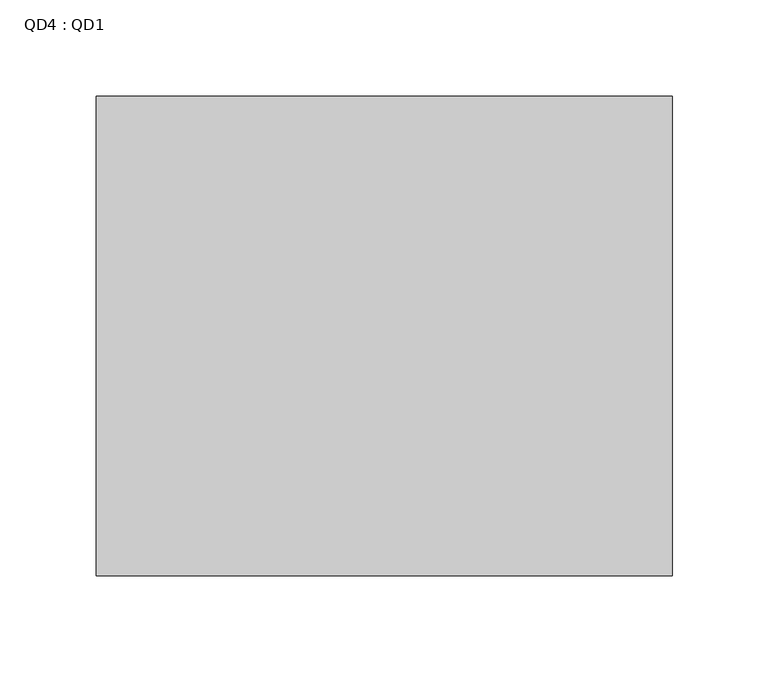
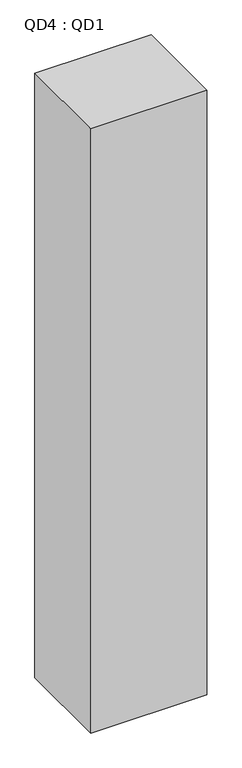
"""IFC4 building model written with IfcOpenShell, lengths in millimetres: proxy geometry, QD4 : QD1."""

from ifc_helpers import new_model, si_unit, frame, origin, place, context, project, spatial, polyline, outline, extrude, source, transform, mapped, element, save


def qd4_qd1_2ae0cfc6(model_context):
    return source(origin(), model_context, "Body", "SweptSolid", [
        extrude(outline(polyline([(22867.4746511, 4466.0121745), (22867.4746511, 4716.0121745), (23167.4746511, 4716.0121745), (23167.4746511, 4466.0121745), (22867.4746511, 4466.0121745)])), frame((0.0, 0.0, 1200.0), z_axis=(0.0, 0.0, 1.0), x_axis=(1.0, 0.0, 0.0)), (0.0, 0.0, 1.0), 1650.0),
    ])


if __name__ == "__main__":
    model = new_model("IFC4")
    model_context = context("Model", 3, world=origin())
    ifc_project = project(units=[si_unit("LENGTHUNIT", "METRE", prefix="MILLI")], contexts=[model_context])
    site = spatial("IfcSite", under=ifc_project)
    building = spatial("IfcBuilding", under=site)
    placement = place(None, origin())
    qd4_qd1_shape = qd4_qd1_2ae0cfc6(model_context)
    element("IfcBuildingElementProxy", 1, Name="QD4 : QD1", ObjectType="QD4 : QD1", at=placement, inside=building, context=model_context, shape_type="MappedRepresentation", body=[
        mapped(qd4_qd1_shape, transform((0.0, 0.0, 0.0), x_axis=(1.0, 0.0, 0.0), y_axis=(0.0, 1.0, 0.0), z_axis=(0.0, 0.0, 1.0))),
    ])
    save(model, "model.ifc")
